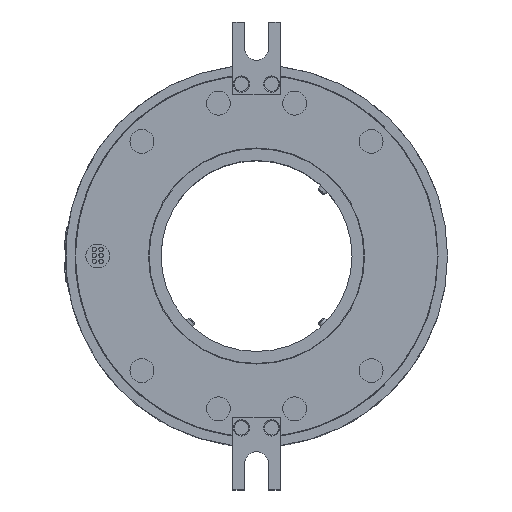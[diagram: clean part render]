
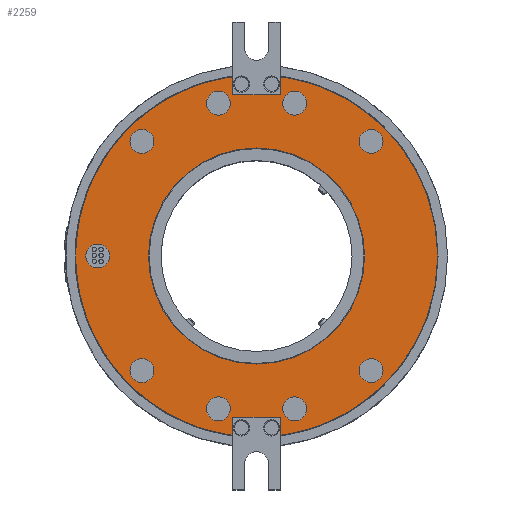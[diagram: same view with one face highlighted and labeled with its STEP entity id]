
A CAD part, top view. The second image highlights one B-rep face of the part: STEP entity #2259.
In plain terms, the highlighted planar face has unit normal (0, 0, 1).
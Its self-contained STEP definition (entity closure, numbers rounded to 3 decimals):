
#170=FACE_BOUND('',#4003,.T.);
#171=FACE_BOUND('',#4004,.T.);
#172=FACE_BOUND('',#4005,.T.);
#173=FACE_BOUND('',#4006,.T.);
#174=FACE_BOUND('',#4007,.T.);
#175=FACE_BOUND('',#4008,.T.);
#176=FACE_BOUND('',#4009,.T.);
#177=FACE_BOUND('',#4010,.T.);
#178=FACE_BOUND('',#4011,.T.);
#179=FACE_BOUND('',#4012,.T.);
#180=FACE_BOUND('',#4013,.T.);
#501=CIRCLE('',#13559,5.);
#502=CIRCLE('',#13560,75.9);
#503=CIRCLE('',#13561,75.9);
#504=CIRCLE('',#13562,45.25);
#505=CIRCLE('',#13563,5.);
#506=CIRCLE('',#13564,5.);
#507=CIRCLE('',#13565,5.);
#508=CIRCLE('',#13566,5.);
#509=CIRCLE('',#13567,5.);
#510=CIRCLE('',#13568,5.);
#511=CIRCLE('',#13569,5.);
#512=CIRCLE('',#13570,5.);
#1071=LINE('',#25180,#1585);
#1072=LINE('',#25183,#1586);
#1073=LINE('',#25185,#1587);
#1074=LINE('',#25189,#1588);
#1075=LINE('',#25191,#1589);
#1076=LINE('',#25193,#1590);
#1585=VECTOR('',#15002,1.);
#1586=VECTOR('',#15003,1.);
#1587=VECTOR('',#15004,1.);
#1588=VECTOR('',#15007,1.);
#1589=VECTOR('',#15008,1.);
#1590=VECTOR('',#15009,1.);
#2259=ADVANCED_FACE('',(#170,#171,#172,#173,#174,#175,#176,#177,#178,#179,
#180),#2777,.T.);
#2777=PLANE('',#13571);
#4003=EDGE_LOOP('',(#6392));
#4004=EDGE_LOOP('',(#6393,#6394,#6395,#6396,#6397,#6398,#6399,#6400));
#4005=EDGE_LOOP('',(#6401));
#4006=EDGE_LOOP('',(#6402));
#4007=EDGE_LOOP('',(#6403));
#4008=EDGE_LOOP('',(#6404));
#4009=EDGE_LOOP('',(#6405));
#4010=EDGE_LOOP('',(#6406));
#4011=EDGE_LOOP('',(#6407));
#4012=EDGE_LOOP('',(#6408));
#4013=EDGE_LOOP('',(#6409));
#6392=ORIENTED_EDGE('',*,*,#11020,.T.);
#6393=ORIENTED_EDGE('',*,*,#11021,.F.);
#6394=ORIENTED_EDGE('',*,*,#11022,.F.);
#6395=ORIENTED_EDGE('',*,*,#11023,.F.);
#6396=ORIENTED_EDGE('',*,*,#11024,.F.);
#6397=ORIENTED_EDGE('',*,*,#11025,.F.);
#6398=ORIENTED_EDGE('',*,*,#11026,.F.);
#6399=ORIENTED_EDGE('',*,*,#11027,.F.);
#6400=ORIENTED_EDGE('',*,*,#11028,.F.);
#6401=ORIENTED_EDGE('',*,*,#11029,.F.);
#6402=ORIENTED_EDGE('',*,*,#11030,.T.);
#6403=ORIENTED_EDGE('',*,*,#11031,.T.);
#6404=ORIENTED_EDGE('',*,*,#11032,.T.);
#6405=ORIENTED_EDGE('',*,*,#11033,.T.);
#6406=ORIENTED_EDGE('',*,*,#11034,.T.);
#6407=ORIENTED_EDGE('',*,*,#11035,.T.);
#6408=ORIENTED_EDGE('',*,*,#11036,.T.);
#6409=ORIENTED_EDGE('',*,*,#11037,.T.);
#9270=VERTEX_POINT('',#25179);
#9271=VERTEX_POINT('',#25181);
#9272=VERTEX_POINT('',#25182);
#9273=VERTEX_POINT('',#25184);
#9274=VERTEX_POINT('',#25186);
#9275=VERTEX_POINT('',#25188);
#9276=VERTEX_POINT('',#25190);
#9277=VERTEX_POINT('',#25192);
#9278=VERTEX_POINT('',#25194);
#9279=VERTEX_POINT('',#25197);
#9280=VERTEX_POINT('',#25199);
#9281=VERTEX_POINT('',#25201);
#9282=VERTEX_POINT('',#25203);
#9283=VERTEX_POINT('',#25205);
#9284=VERTEX_POINT('',#25207);
#9285=VERTEX_POINT('',#25209);
#9286=VERTEX_POINT('',#25211);
#9287=VERTEX_POINT('',#25213);
#11020=EDGE_CURVE('',#9270,#9270,#501,.T.);
#11021=EDGE_CURVE('',#9271,#9272,#1071,.T.);
#11022=EDGE_CURVE('',#9273,#9271,#1072,.T.);
#11023=EDGE_CURVE('',#9274,#9273,#1073,.T.);
#11024=EDGE_CURVE('',#9275,#9274,#502,.T.);
#11025=EDGE_CURVE('',#9276,#9275,#1074,.T.);
#11026=EDGE_CURVE('',#9277,#9276,#1075,.T.);
#11027=EDGE_CURVE('',#9278,#9277,#1076,.T.);
#11028=EDGE_CURVE('',#9272,#9278,#503,.T.);
#11029=EDGE_CURVE('',#9279,#9279,#504,.T.);
#11030=EDGE_CURVE('',#9280,#9280,#505,.T.);
#11031=EDGE_CURVE('',#9281,#9281,#506,.T.);
#11032=EDGE_CURVE('',#9282,#9282,#507,.T.);
#11033=EDGE_CURVE('',#9283,#9283,#508,.T.);
#11034=EDGE_CURVE('',#9284,#9284,#509,.T.);
#11035=EDGE_CURVE('',#9285,#9285,#510,.T.);
#11036=EDGE_CURVE('',#9286,#9286,#511,.T.);
#11037=EDGE_CURVE('',#9287,#9287,#512,.T.);
#13559=AXIS2_PLACEMENT_3D('',#25178,#15000,#15001);
#13560=AXIS2_PLACEMENT_3D('',#25187,#15005,#15006);
#13561=AXIS2_PLACEMENT_3D('',#25195,#15010,#15011);
#13562=AXIS2_PLACEMENT_3D('',#25196,#15012,#15013);
#13563=AXIS2_PLACEMENT_3D('',#25198,#15014,#15015);
#13564=AXIS2_PLACEMENT_3D('',#25200,#15016,#15017);
#13565=AXIS2_PLACEMENT_3D('',#25202,#15018,#15019);
#13566=AXIS2_PLACEMENT_3D('',#25204,#15020,#15021);
#13567=AXIS2_PLACEMENT_3D('',#25206,#15022,#15023);
#13568=AXIS2_PLACEMENT_3D('',#25208,#15024,#15025);
#13569=AXIS2_PLACEMENT_3D('',#25210,#15026,#15027);
#13570=AXIS2_PLACEMENT_3D('',#25212,#15028,#15029);
#13571=AXIS2_PLACEMENT_3D('',#25214,#15030,#15031);
#15000=DIRECTION('',(0.,0.,-1.));
#15001=DIRECTION('',(-1.,0.,0.));
#15002=DIRECTION('',(0.,1.,0.));
#15003=DIRECTION('',(1.,0.,0.));
#15004=DIRECTION('',(0.,-1.,0.));
#15005=DIRECTION('',(0.,0.,-1.));
#15006=DIRECTION('',(1.,0.,0.));
#15007=DIRECTION('',(0.,-1.,0.));
#15008=DIRECTION('',(-1.,0.,0.));
#15009=DIRECTION('',(0.,1.,0.));
#15010=DIRECTION('',(0.,0.,-1.));
#15011=DIRECTION('',(1.,0.,0.));
#15012=DIRECTION('',(0.,0.,1.));
#15013=DIRECTION('',(1.,0.,0.));
#15014=DIRECTION('',(0.,0.,-1.));
#15015=DIRECTION('',(1.,0.,0.));
#15016=DIRECTION('',(0.,0.,-1.));
#15017=DIRECTION('',(1.,0.,0.));
#15018=DIRECTION('',(0.,0.,-1.));
#15019=DIRECTION('',(1.,0.,0.));
#15020=DIRECTION('',(0.,0.,-1.));
#15021=DIRECTION('',(1.,0.,0.));
#15022=DIRECTION('',(0.,0.,-1.));
#15023=DIRECTION('',(1.,0.,0.));
#15024=DIRECTION('',(0.,0.,-1.));
#15025=DIRECTION('',(1.,0.,0.));
#15026=DIRECTION('',(0.,0.,-1.));
#15027=DIRECTION('',(1.,0.,0.));
#15028=DIRECTION('',(0.,0.,-1.));
#15029=DIRECTION('',(1.,0.,0.));
#15030=DIRECTION('',(0.,0.,1.));
#15031=DIRECTION('',(1.,0.,0.));
#25178=CARTESIAN_POINT('',(-66.5,0.,95.5));
#25179=CARTESIAN_POINT('',(-71.5,0.,95.5));
#25180=CARTESIAN_POINT('',(10.,82.75,95.5));
#25181=CARTESIAN_POINT('',(10.,67.5,95.5));
#25182=CARTESIAN_POINT('',(10.,75.238,95.5));
#25183=CARTESIAN_POINT('',(0.,67.5,95.5));
#25184=CARTESIAN_POINT('',(-10.,67.5,95.5));
#25185=CARTESIAN_POINT('',(-10.,82.75,95.5));
#25186=CARTESIAN_POINT('',(-10.,75.238,95.5));
#25187=CARTESIAN_POINT('',(0.,0.,95.5));
#25188=CARTESIAN_POINT('',(-10.,-75.238,95.5));
#25189=CARTESIAN_POINT('',(-10.,-82.75,95.5));
#25190=CARTESIAN_POINT('',(-10.,-67.5,95.5));
#25191=CARTESIAN_POINT('',(0.,-67.5,95.5));
#25192=CARTESIAN_POINT('',(10.,-67.5,95.5));
#25193=CARTESIAN_POINT('',(10.,-82.75,95.5));
#25194=CARTESIAN_POINT('',(10.,-75.238,95.5));
#25195=CARTESIAN_POINT('',(0.,0.,95.5));
#25196=CARTESIAN_POINT('',(0.,0.,95.5));
#25197=CARTESIAN_POINT('',(45.25,0.,95.5));
#25198=CARTESIAN_POINT('',(-48.,-48.,95.5));
#25199=CARTESIAN_POINT('',(-43.,-48.,95.5));
#25200=CARTESIAN_POINT('',(48.,48.,95.5));
#25201=CARTESIAN_POINT('',(53.,48.,95.5));
#25202=CARTESIAN_POINT('',(-16.,64.,95.5));
#25203=CARTESIAN_POINT('',(-11.,64.,95.5));
#25204=CARTESIAN_POINT('',(16.,-64.,95.5));
#25205=CARTESIAN_POINT('',(21.,-64.,95.5));
#25206=CARTESIAN_POINT('',(-48.,48.,95.5));
#25207=CARTESIAN_POINT('',(-43.,48.,95.5));
#25208=CARTESIAN_POINT('',(16.,64.,95.5));
#25209=CARTESIAN_POINT('',(21.,64.,95.5));
#25210=CARTESIAN_POINT('',(48.,-48.,95.5));
#25211=CARTESIAN_POINT('',(53.,-48.,95.5));
#25212=CARTESIAN_POINT('',(-16.,-64.,95.5));
#25213=CARTESIAN_POINT('',(-11.,-64.,95.5));
#25214=CARTESIAN_POINT('',(0.,0.,95.5));
